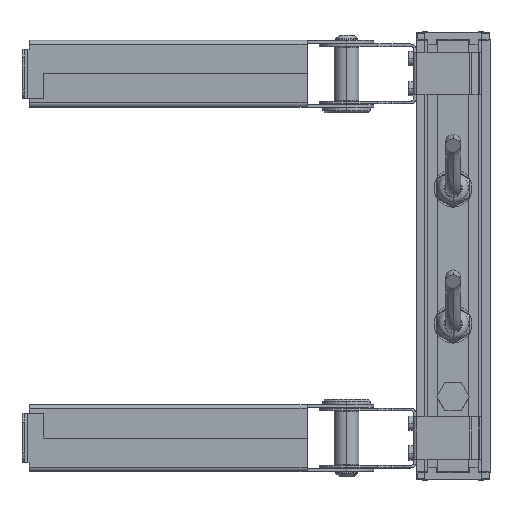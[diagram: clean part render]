
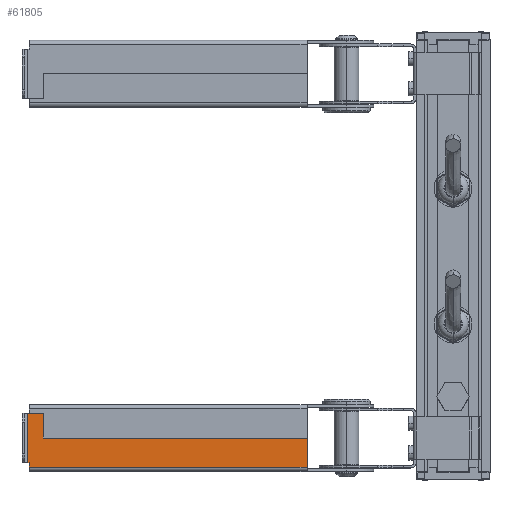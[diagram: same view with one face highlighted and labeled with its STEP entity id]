
A CAD part, top view. The second image highlights one B-rep face of the part: STEP entity #61805.
In plain terms, the highlighted planar face has unit normal (0, 0, 1) as drawn and (1, 0, 0) by its records, which use the part's own axes.
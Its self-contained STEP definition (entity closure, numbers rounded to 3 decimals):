
#44296=DIRECTION('',(0.,0.,1.));
#44297=VECTOR('',#44296,14.);
#44298=CARTESIAN_POINT('',(18.5,-135.5,0.));
#44299=LINE('',#44298,#44297);
#44300=DIRECTION('',(0.,1.,0.));
#44301=VECTOR('',#44300,150.);
#44302=CARTESIAN_POINT('',(18.5,-135.5,0.));
#44303=LINE('',#44302,#44301);
#44304=DIRECTION('',(0.,1.,0.));
#44305=VECTOR('',#44304,158.);
#44306=CARTESIAN_POINT('',(18.5,-143.5,-16.5));
#44307=LINE('',#44306,#44305);
#44308=DIRECTION('',(0.,0.,1.));
#44309=VECTOR('',#44308,2.5);
#44310=CARTESIAN_POINT('',(18.5,-143.5,-16.5));
#44311=LINE('',#44310,#44309);
#44312=DIRECTION('',(0.,-1.,0.));
#44313=VECTOR('',#44312,1.);
#44314=CARTESIAN_POINT('',(18.5,-143.5,-14.));
#44315=LINE('',#44314,#44313);
#44320=DIRECTION('',(0.,0.,-1.));
#44321=VECTOR('',#44320,28.);
#44322=CARTESIAN_POINT('',(18.5,-144.5,14.));
#44323=LINE('',#44322,#44321);
#44346=DIRECTION('',(0.,-1.,0.));
#44347=VECTOR('',#44346,9.);
#44348=CARTESIAN_POINT('',(18.5,-135.5,14.));
#44349=LINE('',#44348,#44347);
#44443=DIRECTION('',(0.,0.,1.));
#44444=VECTOR('',#44443,16.5);
#44445=CARTESIAN_POINT('',(18.5,14.5,-16.5));
#44446=LINE('',#44445,#44444);
#46106=CARTESIAN_POINT('',(18.5,14.5,0.));
#46107=VERTEX_POINT('',#46106);
#46110=CARTESIAN_POINT('',(18.5,14.5,-16.5));
#46112=VERTEX_POINT('',#46110);
#46116=CARTESIAN_POINT('',(18.5,-143.5,-16.5));
#46117=VERTEX_POINT('',#46116);
#46142=CARTESIAN_POINT('',(18.5,-143.5,-14.));
#46143=VERTEX_POINT('',#46142);
#46148=CARTESIAN_POINT('',(18.5,-144.5,-14.));
#46149=VERTEX_POINT('',#46148);
#46170=CARTESIAN_POINT('',(18.5,-135.5,14.));
#46172=VERTEX_POINT('',#46170);
#46173=CARTESIAN_POINT('',(18.5,-144.5,14.));
#46174=VERTEX_POINT('',#46173);
#46182=CARTESIAN_POINT('',(18.5,-135.5,0.));
#46183=VERTEX_POINT('',#46182);
#61785=CARTESIAN_POINT('',(18.5,14.5,18.185));
#61786=DIRECTION('',(-1.,0.,0.));
#61787=DIRECTION('',(0.,0.,1.));
#61788=AXIS2_PLACEMENT_3D('',#61785,#61786,#61787);
#61789=PLANE('',#61788);
#61791=ORIENTED_EDGE('',*,*,#61790,.F.);
#61793=ORIENTED_EDGE('',*,*,#61792,.F.);
#61795=ORIENTED_EDGE('',*,*,#61794,.F.);
#61796=ORIENTED_EDGE('',*,*,#48090,.T.);
#61798=ORIENTED_EDGE('',*,*,#61797,.F.);
#61799=ORIENTED_EDGE('',*,*,#61776,.F.);
#61800=ORIENTED_EDGE('',*,*,#48208,.T.);
#61802=ORIENTED_EDGE('',*,*,#61801,.T.);
#61803=EDGE_LOOP('',(#61791,#61793,#61795,#61796,#61798,#61799,#61800,#61802));
#61804=FACE_OUTER_BOUND('',#61803,.F.);
#61805=ADVANCED_FACE('',(#61804),#61789,.F.);
#48090=EDGE_CURVE('',#46183,#46107,#44303,.T.);
#48208=EDGE_CURVE('',#46117,#46143,#44311,.T.);
#61776=EDGE_CURVE('',#46117,#46112,#44307,.T.);
#61790=EDGE_CURVE('',#46174,#46149,#44323,.T.);
#61792=EDGE_CURVE('',#46172,#46174,#44349,.T.);
#61794=EDGE_CURVE('',#46183,#46172,#44299,.T.);
#61797=EDGE_CURVE('',#46112,#46107,#44446,.T.);
#61801=EDGE_CURVE('',#46143,#46149,#44315,.T.);
